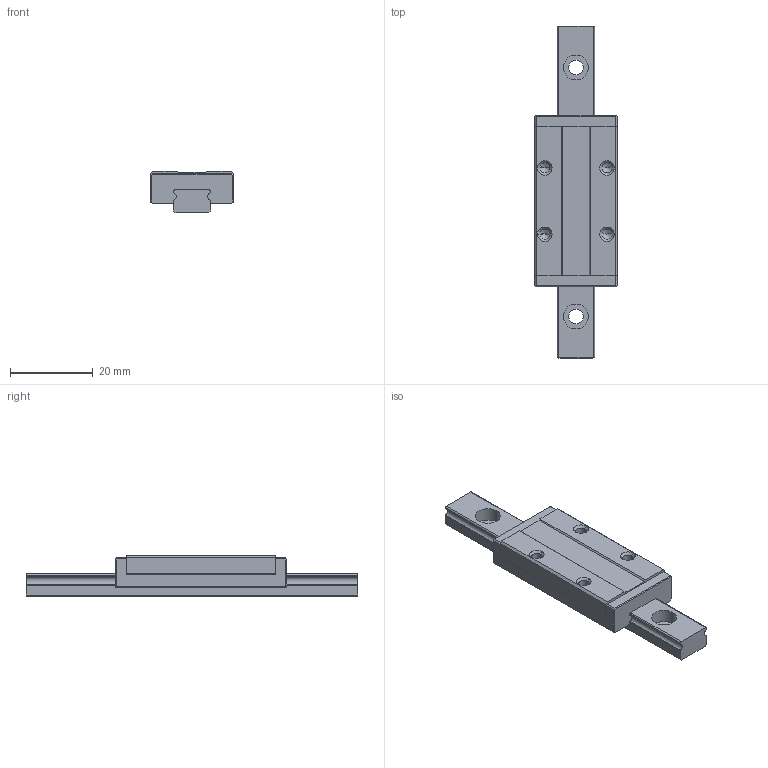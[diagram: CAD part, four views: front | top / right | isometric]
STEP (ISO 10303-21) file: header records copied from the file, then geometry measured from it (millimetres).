
FILE_DESCRIPTION( ( '' ), '1' );
FILE_NAME( 'V:\MSC\MODEL File\MAC catalog drawing\STEP\MSC9LM.stp', ' ', ( '' ), ( '' ), 'ACIS Interop R16', 'Kubotek KeyCreator V6.3.0 (0248)', ' ' );
FILE_SCHEMA( ( 'CONFIG_CONTROL_DESIGN' ) );
Length unit declared in the file: millimetre
Products named in the file (2): 1; 2
Bounding box: 20 x 80 x 10 mm (x, y, z)
Volume: 8353.4 mm3; surface area: 5641 mm2
Topology: 2 solids, 2 shells, 122 faces, 318 edges, 200 vertices
Faces by surface type: plane 64, cylinder 42, cone 16
Entity records: 3785 total; most frequent: DIRECTION 659, CARTESIAN_POINT 643, ORIENTED_EDGE 620, EDGE_CURVE 310, AXIS2_PLACEMENT_3D 228, LINE 203, VECTOR 203, VERTEX_POINT 200
